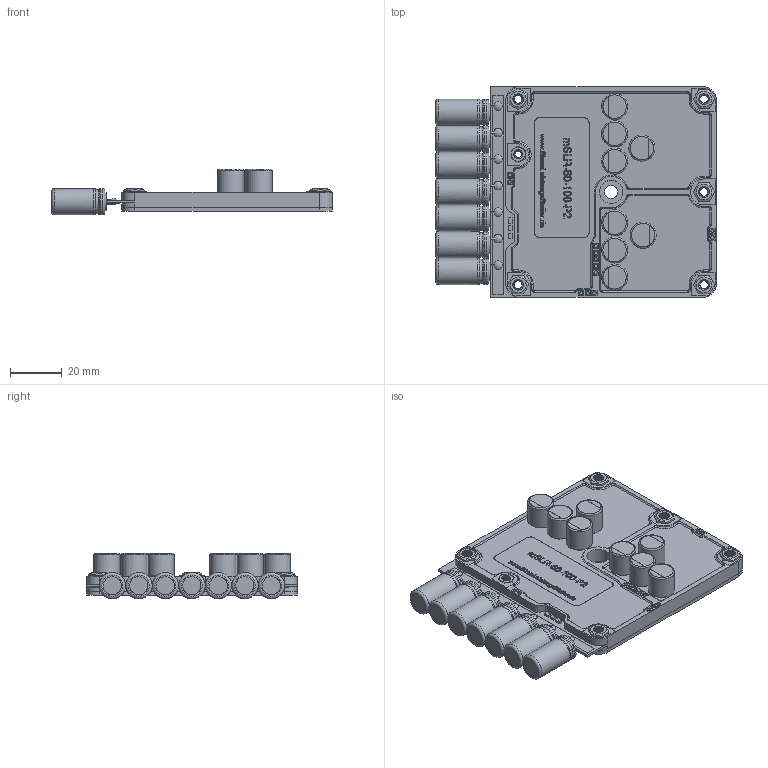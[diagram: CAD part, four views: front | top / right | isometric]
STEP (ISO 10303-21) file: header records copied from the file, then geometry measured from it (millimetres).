
FILE_DESCRIPTION(/* description */ ('Alibre Inc.'),/* implementation_level */ '2;1');
FILE_NAME(/* name */ 'export-3BF501E5-2C3A-4224-A66F-F15E6E14FC84',/* time_stamp */ '2022-04-11T13:33:27+02:00',/* author */ (''),/* organization */ (''),/* preprocessor_version */ 'ST-DEVELOPER v17',/* originating_system */ 'Alibre',/* authorisation */ '');
FILE_SCHEMA (('AUTOMOTIVE_DESIGN'));
Length unit declared in the file: millimetre
Bounding box: 108.01 x 81 x 17.56 mm (x, y, z)
Volume: 63973.9 mm3; surface area: 43898.3 mm2
Topology: 49 solids, 49 shells, 1826 faces, 4643 edges, 3057 vertices
Faces by surface type: plane 997, bspline 381, cylinder 258, torus 122, cone 54, sphere 14
Full cylindrical faces by diameter (mm): 0.5 x14, 1.3 x12, 3 x1, 4 x4, 4.75 x1, 5 x1, 7 x14, 9 x1, 9.22 x8, 10 x16, 10.1 x14
Entity records: 38630 total; most frequent: CARTESIAN_POINT 13476, ORIENTED_EDGE 5776, DIRECTION 3407, EDGE_CURVE 2888, VERTEX_POINT 1943, VECTOR 1771, LINE 1771, EDGE_LOOP 1253
